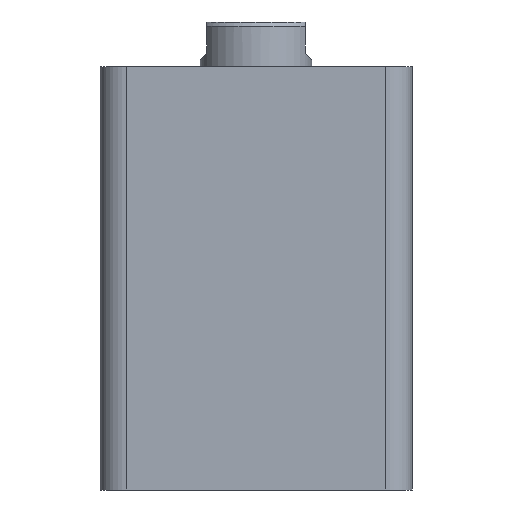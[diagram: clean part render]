
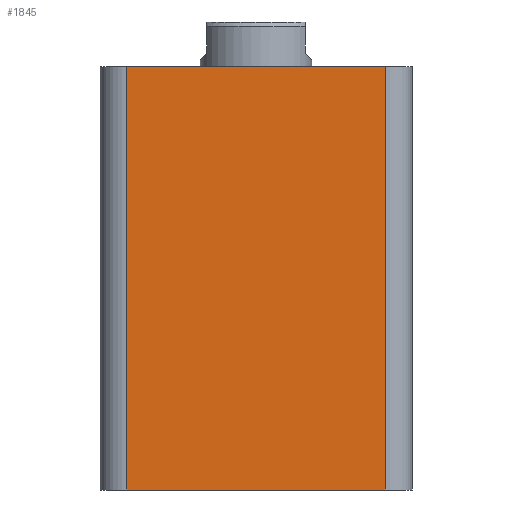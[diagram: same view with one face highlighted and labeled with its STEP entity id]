
A CAD part, front view. The second image highlights one B-rep face of the part: STEP entity #1845.
In plain terms, the highlighted planar face has unit normal (0, -1, 0).
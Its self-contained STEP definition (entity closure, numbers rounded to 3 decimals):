
#30 = FACE_OUTER_BOUND ( 'NONE', #1027, .T. ) ;
#223 = ORIENTED_EDGE ( 'NONE', *, *, #666, .F. ) ;
#224 = ORIENTED_EDGE ( 'NONE', *, *, #667, .T. ) ;
#225 = ORIENTED_EDGE ( 'NONE', *, *, #669, .T. ) ;
#226 = ORIENTED_EDGE ( 'NONE', *, *, #671, .T. ) ;
#312 = VERTEX_POINT ( 'NONE', #1214 ) ;
#373 = VERTEX_POINT ( 'NONE', #2305 ) ;
#375 = VERTEX_POINT ( 'NONE', #2264 ) ;
#395 = VERTEX_POINT ( 'NONE', #2197 ) ;
#666 = EDGE_CURVE ( 'NONE', #312, #395, #1974, .T. ) ;
#667 = EDGE_CURVE ( 'NONE', #312, #375, #1965, .T. ) ;
#669 = EDGE_CURVE ( 'NONE', #375, #373, #1964, .T. ) ;
#671 = EDGE_CURVE ( 'NONE', #373, #395, #1962, .T. ) ;
#749 = AXIS2_PLACEMENT_3D ( 'NONE', #1714, #1708, #1707 ) ;
#1027 = EDGE_LOOP ( 'NONE', ( #223, #224, #225, #226 ) ) ;
#1214 = CARTESIAN_POINT ( 'NONE',  ( -29., -35., 95. ) ) ;
#1707 = DIRECTION ( 'NONE',  ( 0., 0., 1. ) ) ;
#1708 = DIRECTION ( 'NONE',  ( 0., 1., 0. ) ) ;
#1712 = PLANE ( 'NONE',  #749 ) ;
#1714 = CARTESIAN_POINT ( 'NONE',  ( -35., -35., 95. ) ) ;
#1845 = ADVANCED_FACE ( 'NONE', ( #30 ), #1712, .F. ) ;
#1952 = VECTOR ( 'NONE', #2396, 1000. ) ;
#1958 = VECTOR ( 'NONE', #2412, 1000. ) ;
#1961 = VECTOR ( 'NONE', #2411, 1000. ) ;
#1962 = LINE ( 'NONE', #2408, #1952 ) ;
#1964 = LINE ( 'NONE', #2406, #1958 ) ;
#1965 = LINE ( 'NONE', #2413, #1961 ) ;
#1967 = VECTOR ( 'NONE', #2414, 1000. ) ;
#1974 = LINE ( 'NONE', #2418, #1967 ) ;
#2197 = CARTESIAN_POINT ( 'NONE',  ( 29., -35., 95. ) ) ;
#2264 = CARTESIAN_POINT ( 'NONE',  ( -29., -35., 0. ) ) ;
#2305 = CARTESIAN_POINT ( 'NONE',  ( 29., -35., 0. ) ) ;
#2396 = DIRECTION ( 'NONE',  ( 0., 0., 1. ) ) ;
#2406 = CARTESIAN_POINT ( 'NONE',  ( -35., -35., 0. ) ) ;
#2408 = CARTESIAN_POINT ( 'NONE',  ( 29., -35., 95. ) ) ;
#2411 = DIRECTION ( 'NONE',  ( 0., 0., -1. ) ) ;
#2412 = DIRECTION ( 'NONE',  ( 1., 0., 0. ) ) ;
#2413 = CARTESIAN_POINT ( 'NONE',  ( -29., -35., 95. ) ) ;
#2414 = DIRECTION ( 'NONE',  ( 1., 0., 0. ) ) ;
#2418 = CARTESIAN_POINT ( 'NONE',  ( -35., -35., 95. ) ) ;
